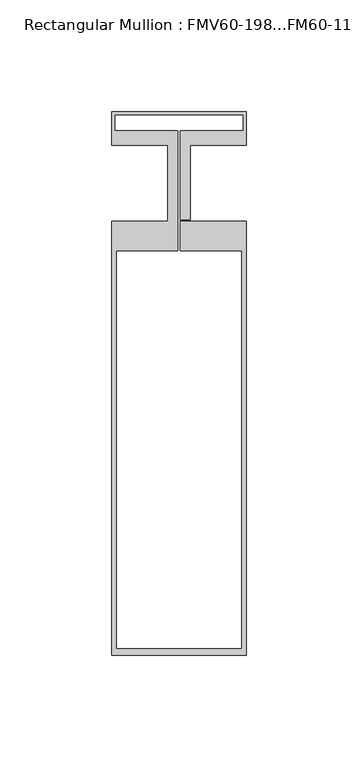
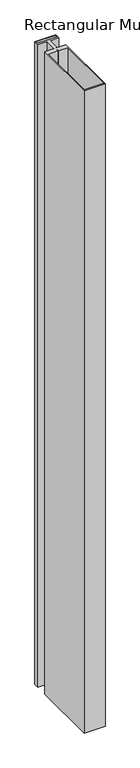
"""IFC4 building model written with IfcOpenShell, lengths in millimetres: member geometry, Rectangular Mullion : FMV60-198...FM60-11 2."""

from ifc_helpers import new_model, si_unit, frame, origin, place, context, project, spatial, polyline, outline, extrude, source, transform, mapped, element, save


def rectangular_mullion_fmv60_198_fm60_11_2_ca5d6e68(model_context):
    return source(origin(), model_context, "Body", "SweptSolid", [
        extrude(outline(polyline([(30.0, -13.8999336), (30.0, -207.8989914), (-30.0, -207.8989914), (-30.0, -13.8999336), (-4.9995097, -13.8999336), (-4.9995097, 20.1000664), (-30.0, 20.1000664), (-30.0, 35.1039104), (30.0, 35.1039104), (30.0, 20.1000664), (5.0, 20.1000664), (5.0, -13.0999336), (0.5, -13.0999336), (0.5, 26.5439745), (28.7000412, 26.5439745), (28.7000412, 33.8039104), (-28.7000412, 33.8039104), (-28.7000412, 26.5439745), (-0.5, 26.5439745), (-0.5, -26.8945136), (-28.0, -26.8945136), (-28.0, -204.8989914), (28.0, -204.8989914), (28.0, -26.8945136), (0.5, -26.8945136), (0.5, -13.8999336), (30.0, -13.8999336)])), frame((0.0, 0.0, -1940.0), z_axis=(0.0, 0.0, 1.0), x_axis=(1.0, 0.0, 0.0)), (0.0, 0.0, 1.0), 1940.0),
    ])


if __name__ == "__main__":
    model = new_model("IFC4")
    model_context = context("Model", 3, world=origin())
    ifc_project = project(units=[si_unit("LENGTHUNIT", "METRE", prefix="MILLI")], contexts=[model_context])
    site = spatial("IfcSite", under=ifc_project)
    building = spatial("IfcBuilding", under=site)
    placement = place(None, origin())
    rectangular_mullion_fmv60_198_fm60_11_2_shape = rectangular_mullion_fmv60_198_fm60_11_2_ca5d6e68(model_context)
    element("IfcMember", 1, ObjectType="Rectangular Mullion : FMV60-198...FM60-11 2", at=placement, inside=building, context=model_context, shape_type="MappedRepresentation", body=[
        mapped(rectangular_mullion_fmv60_198_fm60_11_2_shape, transform((0.0, 0.0, 0.0), x_axis=(1.0, 0.0, 0.0), y_axis=(0.0, 1.0, 0.0), z_axis=(0.0, 0.0, 1.0))),
    ])
    save(model, "model.ifc")
